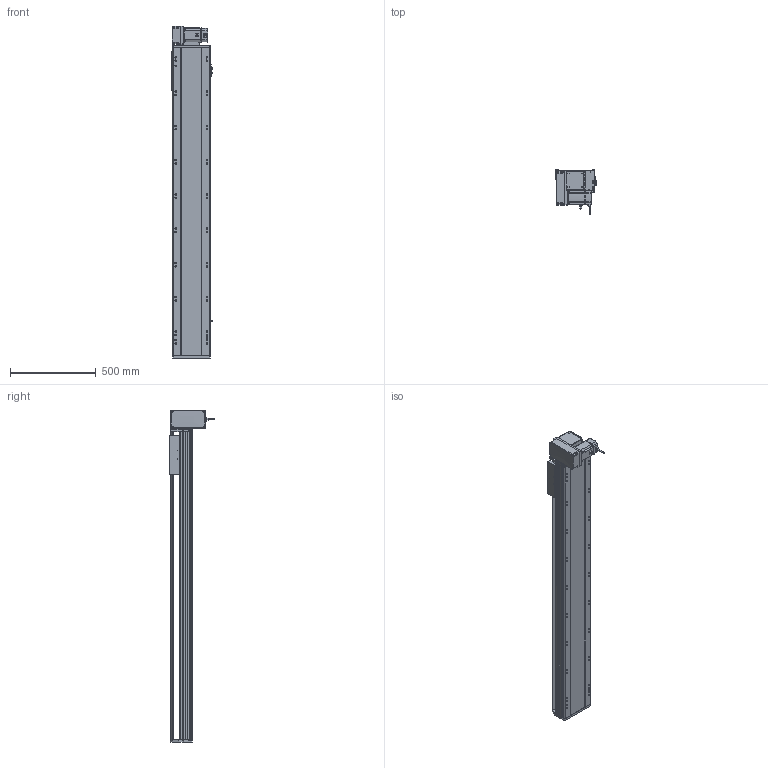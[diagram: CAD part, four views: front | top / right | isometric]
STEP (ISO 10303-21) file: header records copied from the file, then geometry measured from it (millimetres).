
FILE_DESCRIPTION (( 'STEP AP214' ), '1' );
FILE_NAME ('RTB22S-XX-1450-LM-M75-C4.STEP', '2025-12-12T03:52:02', ( '' ), ( '' ), 'SwSTEP 2.0', 'SolidWorks 2018', '' );
FILE_SCHEMA (( 'AUTOMOTIVE_DESIGN' ));
Length unit declared in the file: millimetre
Products named in the file (14): RTB22S-GY-001耜裔^RTB22S-XX-XX-LM-M75-C4; RTB22S-XX-1450-LM-M75-C4; RTB22S-GY-017P^RMP22S-LM-々湍釱蚾饜_RTB22S-XX-XX-LM-M75-C4; RTB22S-GY-007奻裔^RTB22S-XX-XX-LM-M75-C4; RTH22-GY-013外置感应片^RTB22S-XX-XX-LM-M75-C4; OMRON EE-SX672 传感器^RTB22S-XX-XX-LM-M75-C4; 750W萇儂^RTB22S-XX-XX-LM-M75-C4; RTB22S-L-011菁釱^RTB22S-XX-XX-LM-M75-C4; RTB22S-GY-005P^RMP22S-LM-々湍釱蚾饜_RTB22S-XX-XX-LM-M75-C4; RMP22S-LM-々湍釱蚾饜^RTB22S-XX-XX-LM-M75-C4; RTB22S-GY-018P^RMP22S-LM-々湍釱蚾饜_RTB22S-XX-XX-LM-M75-C4; RTB22S-GY-014--々湍釱^RMP22S-LM-々湍釱蚾饜_RTB22S-XX-XX-LM-M75-C4; RTB22S-GY-008-M75--萇儂啣^RMP22S-LM-々湍釱蚾饜_RTB22S-XX-XX-LM-M75-C4; RTB22S-L-004賑釱^RTB22S-XX-XX-LM-M75-C4
Assembly tree (16 placements, depth 3):
  RTB22S-XX-1450-LM-M75-C4
    RTB22S-L-011菁釱^RTB22S-XX-XX-LM-M75-C4
    RTB22S-GY-001耜裔^RTB22S-XX-XX-LM-M75-C4
    750W萇儂^RTB22S-XX-XX-LM-M75-C4
    RTB22S-GY-007奻裔^RTB22S-XX-XX-LM-M75-C4
    RTB22S-L-004賑釱^RTB22S-XX-XX-LM-M75-C4
    RTH22-GY-013外置感应片^RTB22S-XX-XX-LM-M75-C4
    OMRON EE-SX672 传感器^RTB22S-XX-XX-LM-M75-C4  x3
    RMP22S-LM-々湍釱蚾饜^RTB22S-XX-XX-LM-M75-C4
      RTB22S-GY-014--々湍釱^RMP22S-LM-々湍釱蚾饜_RTB22S-XX-XX-LM-M75-C4
      RTB22S-GY-017P^RMP22S-LM-々湍釱蚾饜_RTB22S-XX-XX-LM-M75-C4  x2
      RTB22S-GY-005P^RMP22S-LM-々湍釱蚾饜_RTB22S-XX-XX-LM-M75-C4
      RTB22S-GY-008-M75--萇儂啣^RMP22S-LM-々湍釱蚾饜_RTB22S-XX-XX-LM-M75-C4
      RTB22S-GY-018P^RMP22S-LM-々湍釱蚾饜_RTB22S-XX-XX-LM-M75-C4
Bounding box: 238.5 x 264.7 x 1937.5 mm (x, y, z)
Volume: 26527767 mm3; surface area: 2741778.6 mm2
Topology: 15 solids, 15 shells, 2019 faces, 5486 edges, 3512 vertices
Faces by surface type: plane 919, cylinder 646, bspline 296, cone 146, sphere 8, torus 4
Entity records: 54084 total; most frequent: CARTESIAN_POINT 15468, ORIENTED_EDGE 7744, DIRECTION 7486, EDGE_CURVE 3872, AXIS2_PLACEMENT_3D 2654, VERTEX_POINT 2516, LINE 2178, VECTOR 2178
